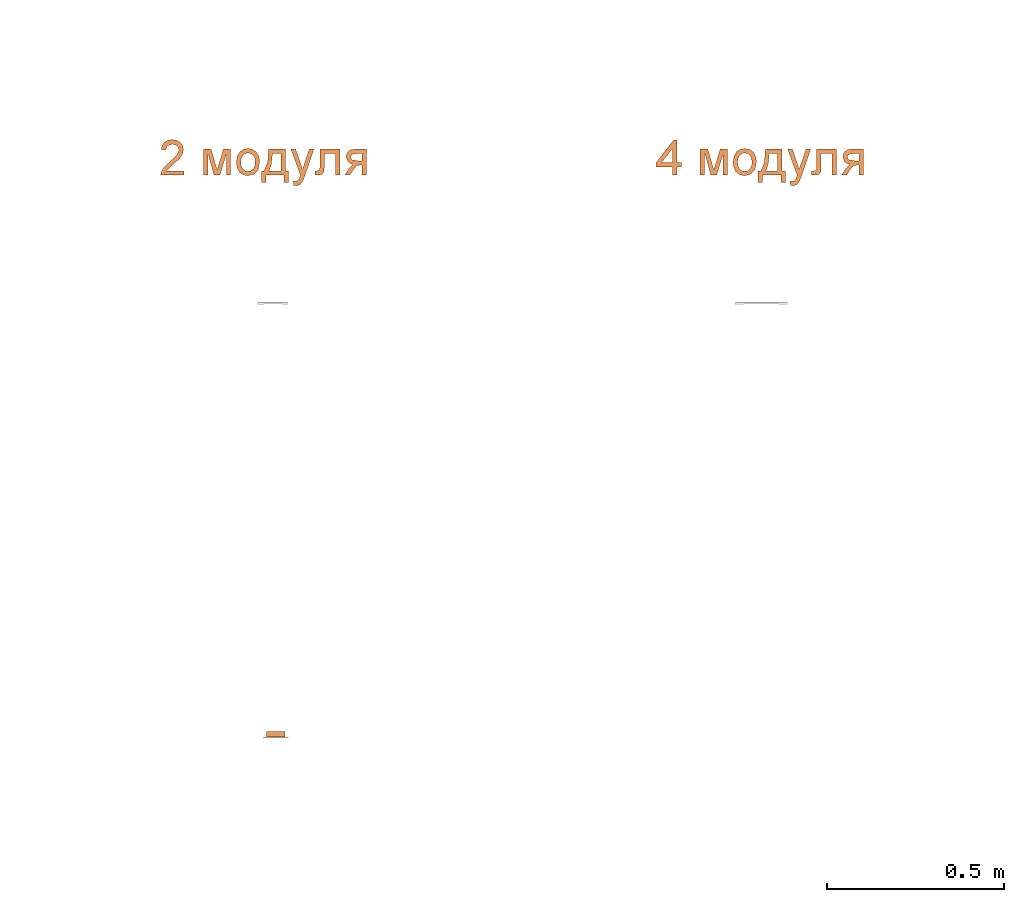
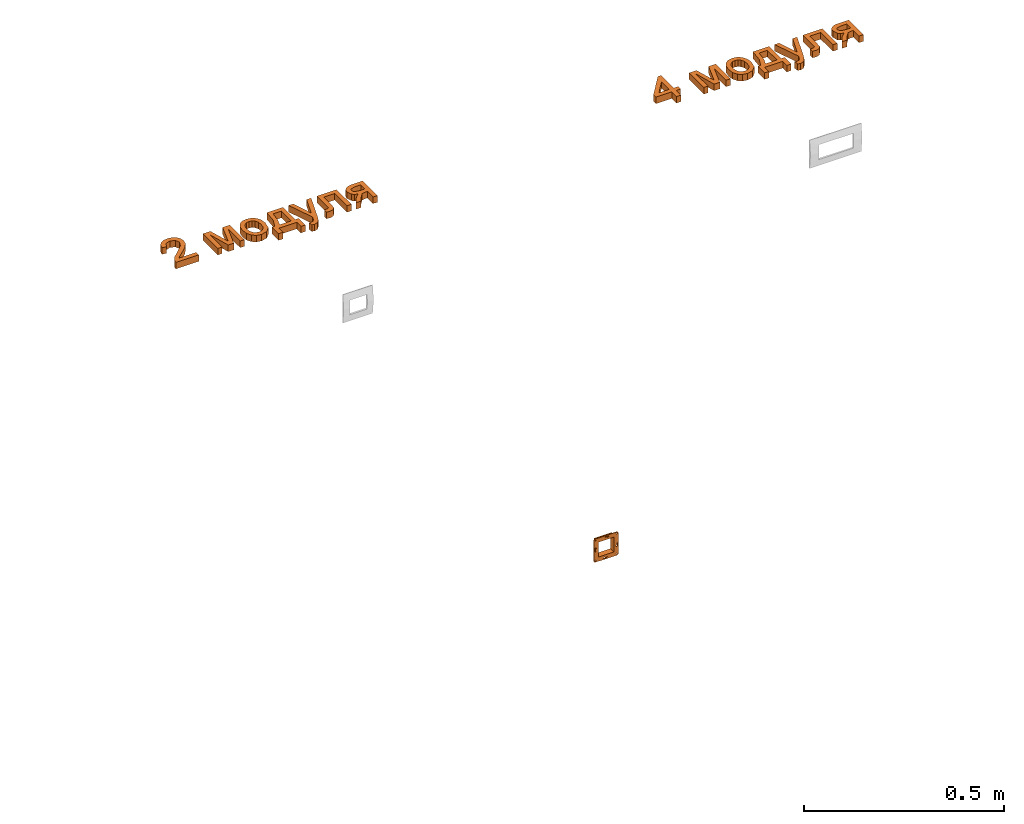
# One storey, part 70 of 87: 3 proxies.
"""IFC2X3 building model written with IfcOpenShell, lengths in millimetres."""

from ifc_helpers import new_model, entity, si_unit, converted_unit, derived_unit, direction, frame, frame_2d, origin, place, context, subcontext, project, spatial, polyline, circle_curve, parameter, trimmed, segment, composite_curve, outline, extrude, source, transform, mapped, type_object, type_shapes, element, save


model = new_model("IFC2X3")

# Units and contexts
model_context = context("Model", 3, precision=0.01, world=origin(), true_north=direction((6.12303176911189e-17, 1.0)))
body_context = subcontext(model_context, "Body", "Model", "MODEL_VIEW")
ifc_project = project(units=[si_unit("LENGTHUNIT", "METRE", prefix="MILLI"), si_unit("AREAUNIT", "SQUARE_METRE"), si_unit("VOLUMEUNIT", "CUBIC_METRE"), converted_unit("PLANEANGLEUNIT", "DEGREE", entity("IfcRatioMeasure", 0.0174532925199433), si_unit("PLANEANGLEUNIT", "RADIAN"), dimensions=[0, 0, 0, 0, 0, 0, 0]), si_unit("MASSUNIT", "GRAM", prefix="KILO"), derived_unit("MASSDENSITYUNIT", [(si_unit("MASSUNIT", "GRAM", prefix="KILO"), 1), (si_unit("LENGTHUNIT", "METRE"), -3)]), si_unit("TIMEUNIT", "SECOND"), si_unit("FREQUENCYUNIT", "HERTZ"), si_unit("THERMODYNAMICTEMPERATUREUNIT", "DEGREE_CELSIUS"), derived_unit("THERMALTRANSMITTANCEUNIT", [(si_unit("MASSUNIT", "GRAM", prefix="KILO"), 1), (si_unit("THERMODYNAMICTEMPERATUREUNIT", "KELVIN"), -1), (si_unit("TIMEUNIT", "SECOND"), -3)]), derived_unit("VOLUMETRICFLOWRATEUNIT", [(si_unit("LENGTHUNIT", "METRE"), 3), (si_unit("TIMEUNIT", "SECOND"), -1)]), si_unit("ELECTRICCURRENTUNIT", "AMPERE"), si_unit("ELECTRICVOLTAGEUNIT", "VOLT"), si_unit("POWERUNIT", "WATT"), si_unit("FORCEUNIT", "NEWTON", prefix="KILO"), si_unit("ILLUMINANCEUNIT", "LUX"), si_unit("LUMINOUSFLUXUNIT", "LUMEN"), si_unit("LUMINOUSINTENSITYUNIT", "CANDELA"), derived_unit("USERDEFINED", [(si_unit("MASSUNIT", "GRAM", prefix="KILO"), -1), (si_unit("LENGTHUNIT", "METRE"), -2), (si_unit("TIMEUNIT", "SECOND"), 3), (si_unit("LUMINOUSFLUXUNIT", "LUMEN"), 1)]), derived_unit("LINEARVELOCITYUNIT", [(si_unit("LENGTHUNIT", "METRE"), 1), (si_unit("TIMEUNIT", "SECOND"), -1)]), si_unit("PRESSUREUNIT", "PASCAL"), derived_unit("USERDEFINED", [(si_unit("LENGTHUNIT", "METRE"), -2), (si_unit("MASSUNIT", "GRAM", prefix="KILO"), 1), (si_unit("TIMEUNIT", "SECOND"), -2)])], contexts=[model_context])

# Site, building, storey
site_placement = place(None, origin())
site = spatial("IfcSite", under=ifc_project, at=site_placement, Name="Default", CompositionType="ELEMENT")
building_placement = place(site_placement, origin())
building = spatial("IfcBuilding", under=site, at=building_placement, Name="Наименование здания", CompositionType="ELEMENT")
storey_placement = place(building_placement, origin())
storey = spatial("IfcBuildingStorey", under=building, at=storey_placement, Name="Этаж 01", CompositionType="ELEMENT", Elevation=0.0)

# Proxies
building_element_proxy_type = type_object("IfcBuildingElementProxyType", Name="2 модуля", PredefinedType="NOTDEFINED")
shared_shape = source(origin(), body_context, "Body", "SweptSolid", [
    extrude(outline(composite_curve([segment(trimmed(circle_curve(frame_2d((30.4500000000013, -30.4500000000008), x_axis=(1.0, 0.0)), 5.0), [parameter(270.0)], [parameter(4.07110999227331e-13)], True, "PARAMETER"), True, "CONTINUOUS"), segment(polyline([(35.4500000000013, -30.4500000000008), (35.4499999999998, 30.4500000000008)]), True, "CONTINUOUS"), segment(trimmed(circle_curve(frame_2d((30.4500000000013, 30.4500000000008), x_axis=(1.0, 0.0)), 5.0), [parameter(0.0)], [parameter(90.0000000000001)], True, "PARAMETER"), True, "CONTINUOUS"), segment(polyline([(30.4500000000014, 35.4500000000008), (-30.4500000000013, 35.4499999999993)]), True, "CONTINUOUS"), segment(trimmed(circle_curve(frame_2d((-30.4500000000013, 30.4500000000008), x_axis=(1.0, 0.0)), 5.0), [parameter(90.0000000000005)], [parameter(180.0)], True, "PARAMETER"), True, "CONTINUOUS"), segment(polyline([(-35.4500000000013, 30.4500000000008), (-35.4499999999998, -30.4500000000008)]), True, "CONTINUOUS"), segment(trimmed(circle_curve(frame_2d((-30.4500000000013, -30.4500000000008), x_axis=(1.0, 0.0)), 5.0), [parameter(180.0)], [parameter(270.0)], True, "PARAMETER"), True, "CONTINUOUS"), segment(polyline([(-30.4500000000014, -35.4500000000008), (30.4500000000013, -35.4499999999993)]), True, "CONTINUOUS")], self_intersect=False), holes=[polyline([(22.4499999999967, -22.6231856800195), (-22.4499999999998, -22.6231856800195), (-22.4499999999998, 22.6231856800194), (22.4499999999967, 22.6231856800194), (22.4499999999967, -22.6231856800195)]), composite_curve([segment(trimmed(circle_curve(frame_2d((-3.26091416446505, -30.4535697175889), x_axis=(1.0, 0.0)), 0.68410650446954), [parameter(49.0742782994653)], [parameter(220.925721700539)], True, "PARAMETER"), False, "CONTINUOUS"), segment(trimmed(circle_curve(frame_2d((0.0, -25.802883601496), x_axis=(1.0, 0.0)), 5.0), [parameter(235.767396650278)], [parameter(310.925721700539)], True, "PARAMETER"), True, "CONTINUOUS"), segment(trimmed(circle_curve(frame_2d((5.53735974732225, -30.4923960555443), x_axis=(1.0, 0.0)), 2.43878756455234), [parameter(201.952605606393)], [parameter(158.047394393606)], True, "PARAMETER"), False, "CONTINUOUS"), segment(trimmed(circle_curve(frame_2d((0.0, -27.6263138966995), x_axis=(1.0, 0.0)), 5.0), [parameter(220.925721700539)], [parameter(310.925721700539)], True, "PARAMETER"), False, "CONTINUOUS")], self_intersect=False), composite_curve([segment(trimmed(circle_curve(frame_2d((3.26091416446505, 30.453569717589), x_axis=(1.0, 0.0)), 0.68410650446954), [parameter(229.074278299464)], [parameter(40.925721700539)], True, "PARAMETER"), False, "CONTINUOUS"), segment(trimmed(circle_curve(frame_2d((0.0, 25.8028836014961), x_axis=(1.0, 0.0)), 5.0), [parameter(55.7673966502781)], [parameter(130.92572170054)], True, "PARAMETER"), True, "CONTINUOUS"), segment(trimmed(circle_curve(frame_2d((-5.53735974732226, 30.4923960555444), x_axis=(1.0, 0.0)), 2.43878756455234), [parameter(21.9526056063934)], [parameter(338.047394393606)], True, "PARAMETER"), False, "CONTINUOUS"), segment(trimmed(circle_curve(frame_2d((0.0, 27.6263138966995), x_axis=(1.0, 0.0)), 5.0), [parameter(40.92572170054)], [parameter(130.92572170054)], True, "PARAMETER"), False, "CONTINUOUS")], self_intersect=False), composite_curve([segment(trimmed(circle_curve(frame_2d((30.4535697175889, -3.26091416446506), x_axis=(1.0, 0.0)), 0.68410650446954), [parameter(139.074278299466)], [parameter(310.925721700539)], True, "PARAMETER"), False, "CONTINUOUS"), segment(trimmed(circle_curve(frame_2d((25.802883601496, 0.0), x_axis=(1.0, 0.0)), 5.0), [parameter(325.767396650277)], [parameter(40.925721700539)], True, "PARAMETER"), True, "CONTINUOUS"), segment(trimmed(circle_curve(frame_2d((30.4923960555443, 5.53735974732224), x_axis=(1.0, 0.0)), 2.43878756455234), [parameter(291.952605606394)], [parameter(248.047394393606)], True, "PARAMETER"), False, "CONTINUOUS"), segment(trimmed(circle_curve(frame_2d((27.6263138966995, 0.0), x_axis=(1.0, 0.0)), 5.0), [parameter(310.925721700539)], [parameter(40.9257217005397)], True, "PARAMETER"), False, "CONTINUOUS")], self_intersect=False), composite_curve([segment(trimmed(circle_curve(frame_2d((-30.453569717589, 3.26091416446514), x_axis=(1.0, 0.0)), 0.68410650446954), [parameter(319.074278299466)], [parameter(130.92572170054)], True, "PARAMETER"), False, "CONTINUOUS"), segment(trimmed(circle_curve(frame_2d((-25.802883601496, 0.0), x_axis=(1.0, 0.0)), 5.0), [parameter(145.767396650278)], [parameter(220.925721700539)], True, "PARAMETER"), True, "CONTINUOUS"), segment(trimmed(circle_curve(frame_2d((-30.4923960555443, -5.53735974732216), x_axis=(1.0, 0.0)), 2.43878756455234), [parameter(111.952605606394)], [parameter(68.0473943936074)], True, "PARAMETER"), False, "CONTINUOUS"), segment(trimmed(circle_curve(frame_2d((-27.6263138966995, 0.0), x_axis=(1.0, 0.0)), 5.0), [parameter(130.92572170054)], [parameter(220.925721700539)], True, "PARAMETER"), False, "CONTINUOUS")], self_intersect=False), composite_curve([segment(trimmed(circle_curve(frame_2d((-30.4923960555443, -30.4923960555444), x_axis=(1.0, 0.0)), 1.70712903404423), [parameter(4.07110999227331e-13)], [parameter(180.0)], True, "PARAMETER"), False, "CONTINUOUS"), segment(trimmed(circle_curve(frame_2d((-30.4923960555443, -30.4923960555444), x_axis=(1.0, 0.0)), 1.70712903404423), [parameter(180.0)], [parameter(360.0)], True, "PARAMETER"), False, "CONTINUOUS")], self_intersect=False), composite_curve([segment(trimmed(circle_curve(frame_2d((-30.4923960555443, 30.4923960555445), x_axis=(1.0, 0.0)), 1.70712903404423), [parameter(4.07110999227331e-13)], [parameter(180.0)], True, "PARAMETER"), False, "CONTINUOUS"), segment(trimmed(circle_curve(frame_2d((-30.4923960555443, 30.4923960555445), x_axis=(1.0, 0.0)), 1.70712903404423), [parameter(180.0)], [parameter(360.0)], True, "PARAMETER"), False, "CONTINUOUS")], self_intersect=False), composite_curve([segment(trimmed(circle_curve(frame_2d((30.4923960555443, -30.4923960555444), x_axis=(1.0, 0.0)), 1.70712903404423), [parameter(4.07110999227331e-13)], [parameter(180.0)], True, "PARAMETER"), False, "CONTINUOUS"), segment(trimmed(circle_curve(frame_2d((30.4923960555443, -30.4923960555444), x_axis=(1.0, 0.0)), 1.70712903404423), [parameter(180.0)], [parameter(360.0)], True, "PARAMETER"), False, "CONTINUOUS")], self_intersect=False), composite_curve([segment(trimmed(circle_curve(frame_2d((30.4923960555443, 30.4923960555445), x_axis=(1.0, 0.0)), 1.70712903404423), [parameter(4.07110999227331e-13)], [parameter(180.0)], True, "PARAMETER"), False, "CONTINUOUS"), segment(trimmed(circle_curve(frame_2d((30.4923960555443, 30.4923960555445), x_axis=(1.0, 0.0)), 1.70712903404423), [parameter(180.0)], [parameter(360.0)], True, "PARAMETER"), False, "CONTINUOUS")], self_intersect=False)]), frame((0.0, -2.0, 0.0), z_axis=(0.0, 1.0, 0.0), x_axis=(1.0, 0.0, 0.0)), (0.0, 0.0, 1.0), 2.0),
    extrude(outline(polyline([(-25.6231856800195, -25.4500000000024), (25.6231856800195, -25.4500000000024), (25.6231856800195, 25.4500000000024), (-25.6231856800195, 25.4500000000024), (-25.6231856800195, -25.4500000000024)]), holes=[polyline([(-22.6231856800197, -22.4499999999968), (-22.6231856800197, 22.4499999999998), (22.6231856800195, 22.4499999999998), (22.6231856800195, -22.4499999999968), (-22.6231856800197, -22.4499999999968)])]), frame((0.0, 0.0, 0.0), z_axis=(0.0, 1.0, 0.0), x_axis=(0.0, 0.0, -1.0)), (0.0, 0.0, 1.0), 15.0),
])
type_shapes(building_element_proxy_type, [shared_shape])
proxy_1_placement = place(storey_placement, frame((77304.4662281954, 2668.72573405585, 0.0)))
element("IfcBuildingElementProxy", 1, at=proxy_1_placement, inside=storey, type_object=building_element_proxy_type, Name="КНС_КаркасДляМонтажаВСтену_ILF_DKC:2 модуля", ObjectType="2 модуля", context=body_context, shape_type="MappedRepresentation", body=[
    mapped(shared_shape, transform((0.0, 0.0, 0.0), scale=1.0)),
])
proxy_2_placement = place(storey_placement, origin())
element("IfcBuildingElementProxy", 2, at=proxy_2_placement, inside=storey, Name="Текст модели:100 мм Arial", ObjectType="Текст модели:100 мм Arial", context=body_context, shape_type="SweptSolid", body=[
    extrude(outline(polyline([(-32.3858783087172, -45.1669477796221), (-32.3858783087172, -57.7239865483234), (33.5385752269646, -57.7239865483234), (32.1896745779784, -49.0664969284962), (24.5622545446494, -35.7369059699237), (8.8414306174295, -21.1810416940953), (-12.8390816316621, -0.26081890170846), (-18.2592096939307, 13.9639515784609), (-13.1456499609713, 25.4786580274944), (0.208466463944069, 30.1752848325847), (14.1266686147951, 25.5890226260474), (19.4119066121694, 12.9093565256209), (31.9689453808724, 14.4789863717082), (28.9247218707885, 26.6252235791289), (22.3426998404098, 35.4973110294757), (12.5662358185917, 40.9235704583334), (-0.061313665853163, 42.732323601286), (-12.7808336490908, 40.721235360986), (-22.5389035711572, 34.6879706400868), (-28.7469122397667, 25.6748617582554), (-30.8162484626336, 14.7242410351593), (-28.5844310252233, 2.81712712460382), (-21.1654774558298, -9.49465698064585), (-3.17604789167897, -26.6992716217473), (11.2694517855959, -38.7780637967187), (16.9348345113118, -45.1669477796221), (-32.3858783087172, -45.1669477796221)])), frame((77013.4622660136, 4309.24959141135, 0.0), z_axis=(0.0, 0.0, -1.0), x_axis=(-1.0, 0.0, 0.0)), (0.0, 0.0, -1.0), 20.0),
    extrude(outline(polyline([(-40.5839870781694, -38.4502715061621), (33.18861568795, -38.4502715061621), (33.18861568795, -25.8932327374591), (-29.0570178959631, -25.8932327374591), (33.18861568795, -8.62730443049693), (33.18861568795, 7.8538089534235), (-26.2120637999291, 25.9045521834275), (33.18861568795, 25.9045521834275), (33.18861568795, 38.4615909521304), (-40.5839870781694, 38.4615909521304), (-40.5839870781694, 17.762097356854), (18.4733358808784, -0.190544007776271), (-40.5839870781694, -16.8433356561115), (-40.5839870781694, -38.4502715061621)])), frame((77139.2354604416, 4284.71422055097, 0.0), z_axis=(0.0, 0.0, 1.0), x_axis=(0.0, -1.0, 0.0)), (0.0, 0.0, 1.0), 20.0),
    extrude(outline(polyline([(-2.34029740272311, -31.6984909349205), (14.2731811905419, -31.6984909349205), (27.1869525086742, -26.587367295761), (35.9909592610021, -17.1811275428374), (40.2751441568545, -4.29577920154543), (38.1491713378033, 13.1690451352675), (27.2514955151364, 26.6485362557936), (5.67797919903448, 33.744628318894), (-10.1280544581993, 33.6081083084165), (-22.8059382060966, 28.3900569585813), (-31.6389568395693, 18.975453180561), (-35.9103951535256, 6.24927588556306), (-35.5406401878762, -5.97109031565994), (-30.8535887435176, -16.7835237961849), (-19.5870121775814, -26.5692340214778), (-2.34029740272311, -31.6984909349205)]), holes=[polyline([(-0.642949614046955, -19.256672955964), (-11.6948097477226, -16.2599663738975), (-19.0989004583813, -10.8341828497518), (-22.9822632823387, -3.6735675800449), (-23.4719397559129, 4.52763423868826), (-20.7783225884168, 12.2046648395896), (-15.0781786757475, 18.0357050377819), (-6.56600936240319, 21.2863283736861), (4.56368400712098, 21.2221083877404), (15.8675929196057, 18.1905150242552), (23.3961896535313, 12.7474982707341), (27.3267847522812, 5.59272509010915), (27.8366887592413, -2.57413755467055), (25.1317228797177, -10.3331599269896), (19.4311586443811, -16.167236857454), (10.8134498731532, -19.3753979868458), (-0.642949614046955, -19.256672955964)])]), frame((77225.113361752, 4290.43975355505, 0.0), z_axis=(0.0, 0.0, 1.0), x_axis=(0.13710570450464, -0.99055642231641, 0.0)), (0.0, 0.0, 1.0), 20.0),
    extrude(outline(polyline([(-60.5357741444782, 21.8585403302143), (-64.135513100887, -25.0925613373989), (-3.09908093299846, -29.7722219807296), (-3.81902872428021, -39.1624423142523), (29.0467424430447, -41.6822595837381), (30.0066728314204, -29.1619658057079), (9.66119544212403, -27.6020789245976), (13.6209082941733, 24.0441329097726), (33.9663856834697, 22.4842460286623), (34.9263160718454, 35.0045398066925), (2.06054490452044, 37.5243570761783), (1.46058841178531, 29.6991734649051), (-23.1599571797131, 21.8585403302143), (-60.5357741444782, 21.8585403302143)]), holes=[polyline([(-48.8554194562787, 9.94335288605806), (-20.1051961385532, 10.6907678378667), (0.380666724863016, 15.6138429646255), (-2.13915054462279, -17.2519282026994), (-50.6552889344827, -13.5321979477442), (-48.8554194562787, 9.94335288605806)])]), frame((77301.5987640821, 4263.2685868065, 0.0), z_axis=(0.0, 0.0, -1.0), x_axis=(-0.0764456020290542, -0.997073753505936, 0.0)), (0.0, 0.0, -1.0), 20.0),
    extrude(outline(polyline([(-9.37518561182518, -42.4598564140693), (-1.53988444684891, -42.4598564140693), (7.48239978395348, -37.7362595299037), (12.8451650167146, -27.6028387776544), (16.0988896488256, -10.2155558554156), (26.1240678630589, 68.9356869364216), (13.2448947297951, 66.3022457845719), (7.58427059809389, 21.3872733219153), (5.65333119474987, 6.22303112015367), (-2.45833389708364, 21.2864004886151), (-24.5276055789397, 58.5787952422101), (-37.5028919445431, 55.9257015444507), (3.36457727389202, -10.7416452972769), (3.01267387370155, -13.9176809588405), (1.50096319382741, -23.6641922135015), (-1.3054357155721, -28.1807080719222), (-6.86672236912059, -30.7321996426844), (-13.3351736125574, -30.9283412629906), (-9.37518561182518, -42.4598564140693)])), frame((77372.7562603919, 4262.99330416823, 0.0), z_axis=(0.0, 0.0, 1.0), x_axis=(0.979728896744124, -0.20032795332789, 0.0)), (0.0, 0.0, 1.0), 20.0),
    extrude(outline(polyline([(-49.3689973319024, 12.5447760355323), (-49.3689973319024, -43.9618984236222), (24.3300290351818, -43.9618984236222), (24.3300290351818, -31.4048596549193), (-36.8119585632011, -31.4048596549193), (-36.8119585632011, -0.0122627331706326), (-1.61791435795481, -0.0122627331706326), (14.6179443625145, 0.833865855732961), (21.4728122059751, 5.48144172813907), (24.403605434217, 16.4688506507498), (23.765943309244, 26.6714446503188), (11.8465666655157, 26.6714446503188), (11.8465666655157, 21.0551128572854), (11.0740144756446, 15.3774673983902), (8.62146784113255, 13.108861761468), (-2.32915288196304, 12.5447760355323), (-49.3689973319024, 12.5447760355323)])), frame((77441.3826028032, 4275.92921029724, 0.0), z_axis=(0.0, 0.0, -1.0), x_axis=(0.0, -1.0, 0.0)), (0.0, 0.0, -1.0), 20.0),
    extrude(outline(polyline([(-36.1880068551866, -39.1855638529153), (-3.42198381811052, -39.1855638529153), (7.43666640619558, -37.7079045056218), (15.3890488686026, -33.2749264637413), (20.2634853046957, -26.4691095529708), (21.8882974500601, -17.8729335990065), (17.130356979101, -3.64816311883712), (11.0970922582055, 1.34890064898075), (2.51317903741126, 3.97925691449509), (13.2062823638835, 14.4271055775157), (25.8123720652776, 34.5870389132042), (11.2932959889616, 34.5870389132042), (1.28690572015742, 18.6454857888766), (-7.46868576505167, 7.92785699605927), (-16.7883629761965, 6.33370168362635), (-23.6309680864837, 6.33370168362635), (-23.6309680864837, 34.5870389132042), (-36.1880068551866, 34.5870389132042), (-36.1880068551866, -39.1855638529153)]), holes=[polyline([(-23.6309680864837, -26.628525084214), (-23.6309680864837, -6.22333708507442), (-10.7796237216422, -6.22333708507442), (4.90441200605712, -8.81077378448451), (9.33125868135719, -16.9164404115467), (6.32688905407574, -23.7222573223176), (-7.07627830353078, -26.628525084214), (-23.6309680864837, -26.628525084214)])]), frame((77524.4987269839, 4286.11264377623, 0.0), z_axis=(0.0, 0.0, 1.0), x_axis=(-1.0, 0.0, 0.0)), (0.0, 0.0, 1.0), 20.0),
])
proxy_3_placement = place(storey_placement, origin())
element("IfcBuildingElementProxy", 3, at=proxy_3_placement, inside=storey, Name="Текст модели:100 мм Arial", ObjectType="Текст модели:100 мм Arial", context=body_context, shape_type="SweptSolid", body=[
    extrude(outline(polyline([(-1.14154897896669, -36.3868737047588), (11.4154897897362, -36.3868737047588), (11.4154897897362, -12.8424260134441), (23.9725285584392, -12.8424260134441), (23.9725285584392, -0.285387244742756), (11.4154897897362, -0.285387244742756), (11.4154897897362, 62.4998065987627), (1.9977107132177, 62.4998065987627), (-46.6608145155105, -0.285387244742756), (-46.6608145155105, -12.8424260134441), (-1.14154897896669, -12.8424260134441), (-1.14154897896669, -36.3868737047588)]), holes=[polyline([(-1.14154897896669, -0.285387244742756), (-31.2097707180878, -0.285387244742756), (-1.14154897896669, 38.5139005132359), (-1.14154897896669, -0.285387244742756)])]), frame((78423.44524561, 4287.91247856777, 0.0)), (0.0, 0.0, 1.0), 20.0),
    extrude(outline(polyline([(-40.5839870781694, -38.4502715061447), (33.18861568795, -38.4502715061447), (33.18861568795, -25.8932327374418), (-29.0570178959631, -25.8932327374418), (33.18861568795, -8.62730443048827), (33.18861568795, 7.85380895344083), (-26.2120637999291, 25.9045521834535), (33.18861568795, 25.9045521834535), (33.18861568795, 38.4615909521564), (-40.5839870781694, 38.4615909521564), (-40.5839870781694, 17.7620973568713), (18.4733358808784, -0.190544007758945), (-40.5839870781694, -16.8433356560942), (-40.5839870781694, -38.4502715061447)])), frame((78539.2354604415, 4284.71422055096, 0.0), z_axis=(0.0, 0.0, 1.0), x_axis=(0.0, -1.0, 0.0)), (0.0, 0.0, 1.0), 20.0),
    extrude(outline(polyline([(-2.34029740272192, -31.6984909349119), (14.2731811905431, -31.6984909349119), (27.1869525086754, -26.5873672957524), (35.9909592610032, -17.1811275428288), (40.2751441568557, -4.29577920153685), (38.1491713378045, 13.1690451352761), (27.2514955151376, 26.6485362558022), (5.67797919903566, 33.7446283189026), (-10.128054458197, 33.6081083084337), (-22.8059382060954, 28.3900569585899), (-31.6389568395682, 18.9754531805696), (-35.9103951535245, 6.24927588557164), (-35.5406401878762, -5.97109031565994), (-30.8535887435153, -16.7835237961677), (-19.5870121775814, -26.5692340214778), (-2.34029740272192, -31.6984909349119)]), holes=[polyline([(-0.642949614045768, -19.2566729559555), (-11.6948097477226, -16.2599663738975), (-19.0989004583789, -10.8341828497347), (-22.9822632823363, -3.67356758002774), (-23.4719397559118, 4.52763423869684), (-20.7783225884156, 12.2046648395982), (-15.0781786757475, 18.0357050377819), (-6.56600936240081, 21.2863283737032), (4.56368400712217, 21.222108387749), (15.8675929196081, 18.1905150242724), (23.3961896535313, 12.7474982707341), (27.3267847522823, 5.59272509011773), (27.8366887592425, -2.57413755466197), (25.1317228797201, -10.3331599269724), (19.4311586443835, -16.1672368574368), (10.8134498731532, -19.3753979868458), (-0.642949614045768, -19.2566729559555)])]), frame((78625.113361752, 4290.43975355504, 0.0), z_axis=(0.0, 0.0, 1.0), x_axis=(0.13710570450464, -0.99055642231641, 0.0)), (0.0, 0.0, 1.0), 20.0),
    extrude(outline(polyline([(-60.5357741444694, 21.858540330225), (-64.1355131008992, -25.0925613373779), (-3.09908093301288, -29.7722219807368), (-3.81902872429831, -39.1624423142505), (29.0467424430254, -41.6822595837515), (30.0066728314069, -29.1619658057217), (9.66119544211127, -27.6020789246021), (13.6209082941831, 24.044132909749), (33.9663856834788, 22.4842460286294), (34.9263160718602, 35.0045398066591), (2.06054490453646, 37.5243570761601), (1.46058841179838, 29.6991734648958), (-23.159957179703, 21.858540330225), (-60.5357741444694, 21.858540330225)]), holes=[polyline([(-48.8554194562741, 9.9433528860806), (-20.1051961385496, 10.6907678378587), (0.38066672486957, 15.6138429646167), (-2.13915054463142, -17.2519282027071), (-50.6552889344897, -13.5321979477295), (-48.8554194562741, 9.9433528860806)])]), frame((78701.5987640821, 4263.26858680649, 0.0), z_axis=(0.0, 0.0, -1.0), x_axis=(-0.0764456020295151, -0.9970737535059, 0.0)), (0.0, 0.0, -1.0), 20.0),
    extrude(outline(polyline([(-9.37518561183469, -42.4598564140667), (-1.53988444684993, -42.4598564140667), (7.4823997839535, -37.7362595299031), (12.8451650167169, -27.602838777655), (16.0988896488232, -10.2155558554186), (26.124067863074, 68.9356869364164), (13.2448947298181, 66.3022457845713), (7.58427059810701, 21.3872733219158), (5.65333119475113, 6.22303112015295), (-2.45833389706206, 21.2864004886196), (-24.5276055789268, 58.5787952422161), (-37.5028919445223, 55.9257015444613), (3.36457727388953, -10.7416452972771), (3.01267387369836, -13.9176809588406), (1.50096319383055, -23.6641922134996), (-1.30543571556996, -28.1807080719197), (-6.86672236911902, -30.7321996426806), (-13.3351736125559, -30.9283412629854), (-9.37518561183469, -42.4598564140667)])), frame((78772.7562603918, 4262.99330416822, 0.0), z_axis=(0.0, 0.0, 1.0), x_axis=(0.979728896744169, -0.200327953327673, 0.0)), (0.0, 0.0, 1.0), 20.0),
    extrude(outline(polyline([(-49.3689973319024, 12.5447760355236), (-49.3689973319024, -43.9618984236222), (24.3300290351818, -43.9618984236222), (24.3300290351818, -31.4048596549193), (-36.8119585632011, -31.4048596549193), (-36.8119585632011, -0.0122627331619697), (-1.61791435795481, -0.0122627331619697), (14.6179443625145, 0.833865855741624), (21.4728122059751, 5.4814417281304), (24.403605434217, 16.4688506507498), (23.765943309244, 26.6714446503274), (11.8465666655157, 26.6714446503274), (11.8465666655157, 21.0551128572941), (11.0740144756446, 15.3774673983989), (8.62146784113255, 13.1088617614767), (-2.32915288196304, 12.5447760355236), (-49.3689973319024, 12.5447760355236)])), frame((78841.3826028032, 4275.92921029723, 0.0), z_axis=(0.0, 0.0, -1.0), x_axis=(0.0, -1.0, 0.0)), (0.0, 0.0, -1.0), 20.0),
    extrude(outline(polyline([(-36.1880068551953, -39.1855638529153), (-3.42198381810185, -39.1855638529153), (7.43666640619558, -37.7079045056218), (15.389048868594, -33.2749264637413), (20.2634853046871, -26.4691095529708), (21.8882974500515, -17.8729335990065), (17.130356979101, -3.64816311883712), (11.0970922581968, 1.34890064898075), (2.51317903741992, 3.97925691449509), (13.2062823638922, 14.4271055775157), (25.8123720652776, 34.5870389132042), (11.2932959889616, 34.5870389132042), (1.28690572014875, 18.6454857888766), (-7.46868576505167, 7.92785699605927), (-16.7883629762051, 6.33370168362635), (-23.6309680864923, 6.33370168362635), (-23.6309680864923, 34.5870389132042), (-36.1880068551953, 34.5870389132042), (-36.1880068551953, -39.1855638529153)]), holes=[polyline([(-23.6309680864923, -26.628525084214), (-23.6309680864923, -6.22333708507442), (-10.7796237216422, -6.22333708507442), (4.90441200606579, -8.81077378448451), (9.33125868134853, -16.9164404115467), (6.3268890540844, -23.7222573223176), (-7.07627830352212, -26.628525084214), (-23.6309680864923, -26.628525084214)])]), frame((78924.4987269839, 4286.11264377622, 0.0), z_axis=(0.0, 0.0, 1.0), x_axis=(-1.0, 0.0, 0.0)), (0.0, 0.0, 1.0), 20.0),
])

save(model, "model.ifc")
